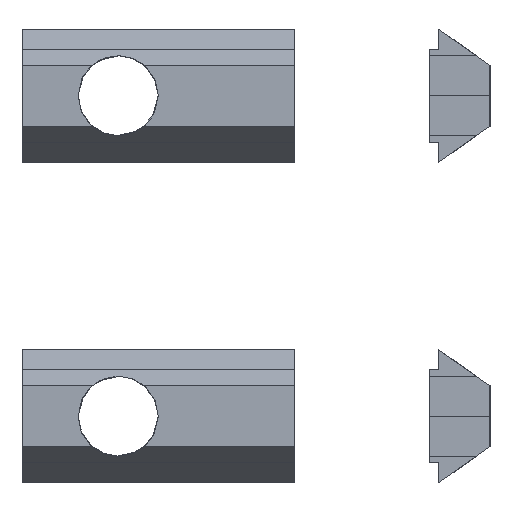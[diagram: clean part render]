
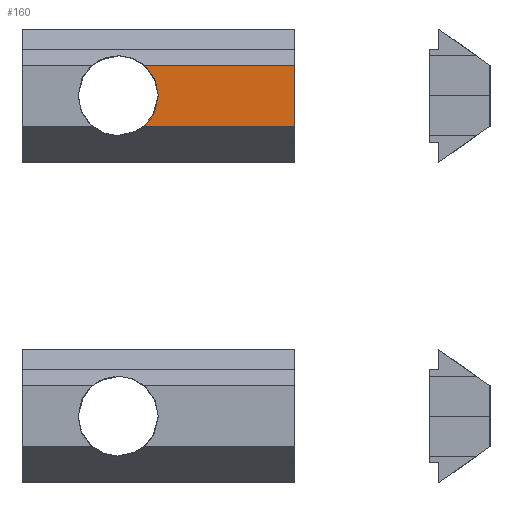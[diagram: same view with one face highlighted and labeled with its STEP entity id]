
A CAD part, left-side view. The second image highlights one B-rep face of the part: STEP entity #160.
In plain terms, the highlighted planar face has unit normal (-1, 0, 0).
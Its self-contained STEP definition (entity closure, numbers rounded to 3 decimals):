
#160=ADVANCED_FACE('',(#225),#2448,.T.);
#225=FACE_OUTER_BOUND('',#295,.T.);
#295=EDGE_LOOP('',(#646,#647,#648,#649,#650));
#646=ORIENTED_EDGE('',*,*,#1773,.F.);
#647=ORIENTED_EDGE('',*,*,#1746,.F.);
#648=ORIENTED_EDGE('',*,*,#1772,.F.);
#649=ORIENTED_EDGE('',*,*,#1752,.F.);
#650=ORIENTED_EDGE('',*,*,#1776,.T.);
#693=(
BOUNDED_CURVE()
B_SPLINE_CURVE(2,(#4835,#4836,#4837),.UNSPECIFIED.,.F.,.F.)
B_SPLINE_CURVE_WITH_KNOTS((3,3),(-2.162,0.),.UNSPECIFIED.)
CURVE()
GEOMETRIC_REPRESENTATION_ITEM()
RATIONAL_B_SPLINE_CURVE((1.,0.907,1.))
REPRESENTATION_ITEM('')
);
#696=(
BOUNDED_CURVE()
B_SPLINE_CURVE(2,(#4863,#4864,#4865),.UNSPECIFIED.,.F.,.F.)
B_SPLINE_CURVE_WITH_KNOTS((3,3),(13.546,15.708),
 .UNSPECIFIED.)
CURVE()
GEOMETRIC_REPRESENTATION_ITEM()
RATIONAL_B_SPLINE_CURVE((1.,0.907,1.))
REPRESENTATION_ITEM('')
);
#990=PCURVE('',#2447,#1350);
#997=PCURVE('',#2449,#1357);
#1030=PCURVE('',#2455,#1390);
#1042=PCURVE('',#2405,#1402);
#1046=PCURVE('',#2448,#1406);
#1047=PCURVE('',#2448,#1407);
#1048=PCURVE('',#2448,#1408);
#1049=PCURVE('',#2448,#1409);
#1050=PCURVE('',#2448,#1410);
#1054=PCURVE('',#2406,#1414);
#1350=DEFINITIONAL_REPRESENTATION('',(#2188),#4907);
#1357=DEFINITIONAL_REPRESENTATION('',(#2199),#4907);
#1390=DEFINITIONAL_REPRESENTATION('',(#2250),#4907);
#1402=DEFINITIONAL_REPRESENTATION('',(#2262),#4907);
#1406=DEFINITIONAL_REPRESENTATION('',(#2266),#4907);
#1407=DEFINITIONAL_REPRESENTATION('',(#2267),#4907);
#1408=DEFINITIONAL_REPRESENTATION('',(#2268),#4907);
#1409=DEFINITIONAL_REPRESENTATION('',(#2269),#4907);
#1410=DEFINITIONAL_REPRESENTATION('',(#2270),#4907);
#1414=DEFINITIONAL_REPRESENTATION('',(#2274),#4907);
#1566=SURFACE_CURVE('',#2187,(#990,#1047),.PCURVE_S1.);
#1572=SURFACE_CURVE('',#2198,(#997,#1049),.PCURVE_S1.);
#1592=SURFACE_CURVE('',#2249,(#1030,#1048),.PCURVE_S1.);
#1593=SURFACE_CURVE('',#693,(#1042,#1046),.PCURVE_S1.);
#1596=SURFACE_CURVE('',#696,(#1050,#1054),.PCURVE_S1.);
#1746=EDGE_CURVE('',#2374,#2389,#1566,.T.);
#1752=EDGE_CURVE('',#2393,#2377,#1572,.T.);
#1772=EDGE_CURVE('',#2377,#2374,#1592,.T.);
#1773=EDGE_CURVE('',#2389,#2391,#1593,.T.);
#1776=EDGE_CURVE('',#2393,#2391,#1596,.T.);
#2187=B_SPLINE_CURVE_WITH_KNOTS('',1,(#4566,#4567),.UNSPECIFIED.,.F.,.F.,
(2,2),(0.,9.386),.UNSPECIFIED.);
#2188=B_SPLINE_CURVE_WITH_KNOTS('',1,(#4568,#4569),.UNSPECIFIED.,.F.,.F.,
(2,2),(0.,9.386),.UNSPECIFIED.);
#2198=B_SPLINE_CURVE_WITH_KNOTS('',1,(#4634,#4635),.UNSPECIFIED.,.F.,.F.,
(2,2),(-9.386,0.),.UNSPECIFIED.);
#2199=B_SPLINE_CURVE_WITH_KNOTS('',1,(#4636,#4637),.UNSPECIFIED.,.F.,.F.,
(2,2),(-9.386,0.),.UNSPECIFIED.);
#2249=B_SPLINE_CURVE_WITH_KNOTS('',1,(#4792,#4793),.UNSPECIFIED.,.F.,.F.,
(2,2),(-3.819,0.),.UNSPECIFIED.);
#2250=B_SPLINE_CURVE_WITH_KNOTS('',1,(#4794,#4795),.UNSPECIFIED.,.F.,.F.,
(2,2),(-3.819,0.),.UNSPECIFIED.);
#2262=B_SPLINE_CURVE_WITH_KNOTS('',1,(#4838,#4839),.UNSPECIFIED.,.F.,.F.,
(2,2),(-2.162,0.),.UNSPECIFIED.);
#2266=B_SPLINE_CURVE_WITH_KNOTS('',3,(#4850,#4851,#4852,#4853,#4854,#4855,
#4856),.UNSPECIFIED.,.F.,.F.,(4,3,4),(-2.162,-1.201,
0.),.UNSPECIFIED.);
#2267=B_SPLINE_CURVE_WITH_KNOTS('',1,(#4857,#4858),.UNSPECIFIED.,.F.,.F.,
(2,2),(0.,9.386),.UNSPECIFIED.);
#2268=B_SPLINE_CURVE_WITH_KNOTS('',1,(#4859,#4860),.UNSPECIFIED.,.F.,.F.,
(2,2),(-3.819,0.),.UNSPECIFIED.);
#2269=B_SPLINE_CURVE_WITH_KNOTS('',1,(#4861,#4862),.UNSPECIFIED.,.F.,.F.,
(2,2),(-9.386,0.),.UNSPECIFIED.);
#2270=B_SPLINE_CURVE_WITH_KNOTS('',3,(#4866,#4867,#4868,#4869,#4870,#4871,
#4872),.UNSPECIFIED.,.F.,.F.,(4,3,4),(13.546,14.507,
15.708),.UNSPECIFIED.);
#2274=B_SPLINE_CURVE_WITH_KNOTS('',1,(#4879,#4880),.UNSPECIFIED.,.F.,.F.,
(2,2),(13.546,15.708),.UNSPECIFIED.);
#2374=VERTEX_POINT('',#4493);
#2377=VERTEX_POINT('',#4496);
#2389=VERTEX_POINT('',#4508);
#2391=VERTEX_POINT('',#4510);
#2393=VERTEX_POINT('',#4512);
#2405=(
BOUNDED_SURFACE()
B_SPLINE_SURFACE(1,2,((#4454,#4455,#4456,#4457,#4458,#4459,#4460,#4461,#4462),
(#4463,#4464,#4465,#4466,#4467,#4468,#4469,#4470,#4471)),.UNSPECIFIED.,.F.,
 .F.,.F.)
B_SPLINE_SURFACE_WITH_KNOTS((2,2),(3,2,2,2,3),(0.,17.),(0.,3.927,
7.854,11.781,15.708),.UNSPECIFIED.)
GEOMETRIC_REPRESENTATION_ITEM()
RATIONAL_B_SPLINE_SURFACE(((1.,0.707,1.,0.707,1.,
0.707,1.,0.707,1.),(1.,0.707,1.,0.707,
1.,0.707,1.,0.707,1.)))
REPRESENTATION_ITEM('')
SURFACE()
);
#2406=(
BOUNDED_SURFACE()
B_SPLINE_SURFACE(1,2,((#4472,#4473,#4474,#4475,#4476,#4477,#4478,#4479,#4480),
(#4481,#4482,#4483,#4484,#4485,#4486,#4487,#4488,#4489)),.UNSPECIFIED.,.F.,
 .F.,.F.)
B_SPLINE_SURFACE_WITH_KNOTS((2,2),(3,2,2,2,3),(0.,17.),(0.,3.927,
7.854,11.781,15.708),.UNSPECIFIED.)
GEOMETRIC_REPRESENTATION_ITEM()
RATIONAL_B_SPLINE_SURFACE(((1.,0.707,1.,0.707,1.,
0.707,1.,0.707,1.),(1.,0.707,1.,0.707,
1.,0.707,1.,0.707,1.)))
REPRESENTATION_ITEM('')
SURFACE()
);
#2447=PLANE('',#2541);
#2448=PLANE('',#2542);
#2449=PLANE('',#2543);
#2455=PLANE('',#2549);
#2541=AXIS2_PLACEMENT_3D('',#4446,#2600,$);
#2542=AXIS2_PLACEMENT_3D('',#4447,#2601,$);
#2543=AXIS2_PLACEMENT_3D('',#4448,#2602,$);
#2549=AXIS2_PLACEMENT_3D('',#4490,#2608,$);
#2600=DIRECTION('',(-0.574,0.,-0.819));
#2601=DIRECTION('',(-1.,0.,0.));
#2602=DIRECTION('',(-0.574,0.,0.819));
#2608=DIRECTION('',(0.,-1.,0.));
#4446=CARTESIAN_POINT('',(-0.6,-11.,-4.15));
#4447=CARTESIAN_POINT('',(-3.8,-11.,-1.909));
#4448=CARTESIAN_POINT('',(-3.8,-11.,1.909));
#4454=CARTESIAN_POINT('',(-9.6,-2.5,0.));
#4455=CARTESIAN_POINT('',(-9.6,-2.5,-2.5));
#4456=CARTESIAN_POINT('',(-9.6,0.,-2.5));
#4457=CARTESIAN_POINT('',(-9.6,2.5,-2.5));
#4458=CARTESIAN_POINT('',(-9.6,2.5,0.));
#4459=CARTESIAN_POINT('',(-9.6,2.5,2.5));
#4460=CARTESIAN_POINT('',(-9.6,0.,2.5));
#4461=CARTESIAN_POINT('',(-9.6,-2.5,2.5));
#4462=CARTESIAN_POINT('',(-9.6,-2.5,0.));
#4463=CARTESIAN_POINT('',(7.4,-2.5,0.));
#4464=CARTESIAN_POINT('',(7.4,-2.5,-2.5));
#4465=CARTESIAN_POINT('',(7.4,0.,-2.5));
#4466=CARTESIAN_POINT('',(7.4,2.5,-2.5));
#4467=CARTESIAN_POINT('',(7.4,2.5,0.));
#4468=CARTESIAN_POINT('',(7.4,2.5,2.5));
#4469=CARTESIAN_POINT('',(7.4,0.,2.5));
#4470=CARTESIAN_POINT('',(7.4,-2.5,2.5));
#4471=CARTESIAN_POINT('',(7.4,-2.5,0.));
#4472=CARTESIAN_POINT('',(-9.6,-2.5,0.));
#4473=CARTESIAN_POINT('',(-9.6,-2.5,-2.5));
#4474=CARTESIAN_POINT('',(-9.6,0.,-2.5));
#4475=CARTESIAN_POINT('',(-9.6,2.5,-2.5));
#4476=CARTESIAN_POINT('',(-9.6,2.5,0.));
#4477=CARTESIAN_POINT('',(-9.6,2.5,2.5));
#4478=CARTESIAN_POINT('',(-9.6,0.,2.5));
#4479=CARTESIAN_POINT('',(-9.6,-2.5,2.5));
#4480=CARTESIAN_POINT('',(-9.6,-2.5,0.));
#4481=CARTESIAN_POINT('',(7.4,-2.5,0.));
#4482=CARTESIAN_POINT('',(7.4,-2.5,-2.5));
#4483=CARTESIAN_POINT('',(7.4,0.,-2.5));
#4484=CARTESIAN_POINT('',(7.4,2.5,-2.5));
#4485=CARTESIAN_POINT('',(7.4,2.5,0.));
#4486=CARTESIAN_POINT('',(7.4,2.5,2.5));
#4487=CARTESIAN_POINT('',(7.4,0.,2.5));
#4488=CARTESIAN_POINT('',(7.4,-2.5,2.5));
#4489=CARTESIAN_POINT('',(7.4,-2.5,0.));
#4490=CARTESIAN_POINT('',(-4.275,-11.,5.188));
#4493=CARTESIAN_POINT('',(-3.8,-11.,-1.909));
#4496=CARTESIAN_POINT('',(-3.8,-11.,1.909));
#4508=CARTESIAN_POINT('',(-3.8,-1.614,-1.909));
#4510=CARTESIAN_POINT('',(-3.8,-2.5,0.));
#4512=CARTESIAN_POINT('',(-3.8,-1.614,1.909));
#4566=CARTESIAN_POINT('',(-3.8,-11.,-1.909));
#4567=CARTESIAN_POINT('',(-3.8,-1.614,-1.909));
#4568=CARTESIAN_POINT('',(0.,0.));
#4569=CARTESIAN_POINT('',(0.,9.386));
#4634=CARTESIAN_POINT('',(-3.8,-1.614,1.909));
#4635=CARTESIAN_POINT('',(-3.8,-11.,1.909));
#4636=CARTESIAN_POINT('',(3.819,9.386));
#4637=CARTESIAN_POINT('',(3.819,0.));
#4792=CARTESIAN_POINT('',(-3.8,-11.,1.909));
#4793=CARTESIAN_POINT('',(-3.8,-11.,-1.909));
#4794=CARTESIAN_POINT('',(-6.059,-3.2));
#4795=CARTESIAN_POINT('',(-2.241,-3.2));
#4835=CARTESIAN_POINT('',(-3.8,-1.614,-1.909));
#4836=CARTESIAN_POINT('',(-3.8,-2.5,-1.16));
#4837=CARTESIAN_POINT('',(-3.8,-2.5,0.));
#4838=CARTESIAN_POINT('',(5.8,2.162));
#4839=CARTESIAN_POINT('',(5.8,0.));
#4850=CARTESIAN_POINT('',(0.,9.386));
#4851=CARTESIAN_POINT('',(0.27,9.067));
#4852=CARTESIAN_POINT('',(0.581,8.86));
#4853=CARTESIAN_POINT('',(0.857,8.732));
#4854=CARTESIAN_POINT('',(1.202,8.572));
#4855=CARTESIAN_POINT('',(1.563,8.5));
#4856=CARTESIAN_POINT('',(1.909,8.5));
#4857=CARTESIAN_POINT('',(0.,0.));
#4858=CARTESIAN_POINT('',(0.,9.386));
#4859=CARTESIAN_POINT('',(3.819,0.));
#4860=CARTESIAN_POINT('',(0.,0.));
#4861=CARTESIAN_POINT('',(3.819,9.386));
#4862=CARTESIAN_POINT('',(3.819,0.));
#4863=CARTESIAN_POINT('',(-3.8,-1.614,1.909));
#4864=CARTESIAN_POINT('',(-3.8,-2.5,1.16));
#4865=CARTESIAN_POINT('',(-3.8,-2.5,0.));
#4866=CARTESIAN_POINT('',(3.819,9.386));
#4867=CARTESIAN_POINT('',(3.548,9.067));
#4868=CARTESIAN_POINT('',(3.238,8.86));
#4869=CARTESIAN_POINT('',(2.962,8.732));
#4870=CARTESIAN_POINT('',(2.617,8.572));
#4871=CARTESIAN_POINT('',(2.256,8.5));
#4872=CARTESIAN_POINT('',(1.909,8.5));
#4879=CARTESIAN_POINT('',(5.8,13.546));
#4880=CARTESIAN_POINT('',(5.8,15.708));
#4907=(
GEOMETRIC_REPRESENTATION_CONTEXT(2)
PARAMETRIC_REPRESENTATION_CONTEXT()
REPRESENTATION_CONTEXT('pspace','')
);
